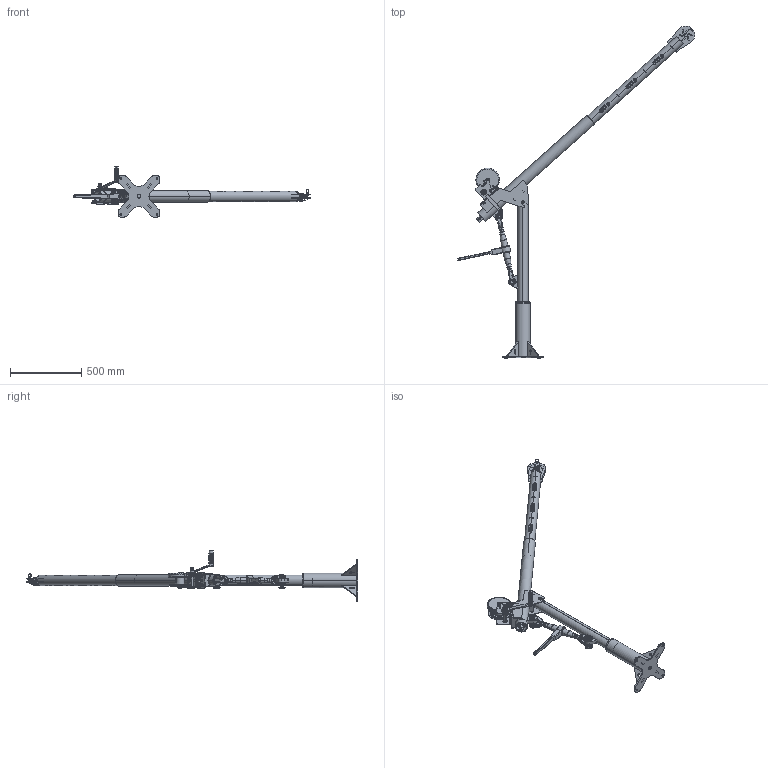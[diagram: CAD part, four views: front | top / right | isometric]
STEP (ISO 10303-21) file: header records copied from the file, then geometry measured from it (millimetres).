
FILE_DESCRIPTION (( 'STEP AP214' ), '1' );
FILE_NAME ('OZTP500DAV.STEP', '2022-06-30T20:05:34', ( '' ), ( '' ), 'SwSTEP 2.0', 'SolidWorks 2021', '' );
FILE_SCHEMA (( 'AUTOMOTIVE_DESIGN' ));
Length unit declared in the file: inch
Products named in the file (47): TSD05018.STEP; TSD05007.STEP; TSD05002.STEP; TSD05015.STEP; SXB7005.STEP; .50-13 Steel Hex Weld Nut_93560A180.STEP; SXB7000.STEP; TW10 10in RATCHET JACK.STEP; HANG-2.STEP; TSD05020.STEP; SD7012.STEP; TSD05006.STEP; TSD05017.STEP; OZ110001.STEP; .375 FLAT WASHER ZINC YELLOW_98026A031.STEP; TSD05021.STEP; SXB7003.STEP; .375 LOCK WASHER ZINC YELLOW_91104A031.STEP; OZPED2.STEP; .375-16 Steel Hex Weld Nut_93560A160.STEP; TSD05013.STEP; SXB7004.STEP; SD7005.STEP; TSD05004.STEP; TSD12102.STEP; SXB7001.STEP; TSD05300.STEP; TSD05019.STEP; DRI-14.STEP; TSD05101.STEP; TSD05014.STEP; TW10 CLEVIS ENDS.STEP; TSD05011.STEP; DLB1200A.STEP; TSD05100.STEP; TSD05220.STEP; SD7004.STEP; TSD05003.STEP; TSD05200.STEP; TSD05001.STEP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
Assembly tree (67 placements, depth 4):
  OZTP500DAV
    TSD05300.STEP
      TSD05017.STEP
      TSD05018.STEP
      TSD05019.STEP
    TSD05200.STEP
      OZ110001.STEP
        TSD05020.STEP
        .375-16 Steel Hex Weld Nut_93560A160.STEP  x4
        .50-13 Steel Hex Weld Nut_93560A180.STEP  x3
      TSD05220.STEP
        TSD05007.STEP
      TSD05006.STEP
      TSD05014.STEP
      TSD05013.STEP
      TSD05015.STEP  x2
      TSD05021.STEP  x2
      TSD05016.STEP
    TSD05100.STEP
      TSD05101.STEP
        TSD05004.STEP
        TSD05003.STEP
      TSD05002.STEP
      TSD05001.STEP  x2
    TSD05500.STEP
      TSD05008.STEP
      TSD05011.STEP
    TW10 10in RATCHET JACK.STEP
      TW10 BARREL.STEP
      TW10 CLEVIS ENDS.STEP  x2
    OZPED2.STEP
      SXB7000.STEP
        SXB7001.STEP
        SXB7003.STEP
        SXB7004.STEP
        SXB7002.STEP  x4
      SXB7005.STEP
    SD7004.STEP
    SD7005.STEP
    DLB1200A.STEP
    SD7012.STEP
    DRI-14.STEP
    TSD12102.STEP  x2
    HANG-2.STEP  x3
    .375 X 1 HEX BOLT ZINC YELLOW-GRD 8_92620A624.STEP  x3
    .375 FLAT WASHER ZINC YELLOW_98026A031.STEP  x3
    .375 LOCK WASHER ZINC YELLOW_91104A031.STEP  x3
Bounding box: 1668.9 x 2335.2 x 353.63 mm (x, y, z)
Volume: 7407781.2 mm3; surface area: 3047983.3 mm2
Topology: 56 solids, 100 shells, 5261 faces, 14569 edges, 9534 vertices
Faces by surface type: cylinder 3101, plane 1344, bspline 416, cone 304, torus 96
Entity records: 328418 total; most frequent: CARTESIAN_POINT 230184, ORIENTED_EDGE 24862, DIRECTION 12492, EDGE_CURVE 12457, B_SPLINE_CURVE_WITH_KNOTS 9227, VERTEX_POINT 8182, AXIS2_PLACEMENT_3D 5359, EDGE_LOOP 4754
